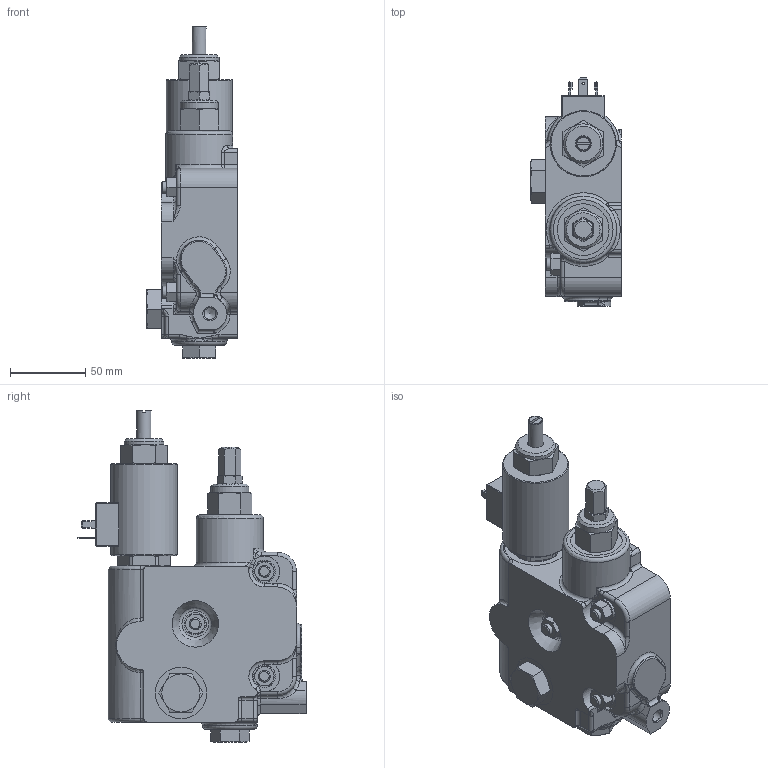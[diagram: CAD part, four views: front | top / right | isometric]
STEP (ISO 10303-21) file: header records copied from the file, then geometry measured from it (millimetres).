
FILE_DESCRIPTION((''),'2;1');
FILE_NAME('C:\Vault\Workspace\z_ShellModels\SVIF15P12H_Shell.stp','2012-02-09T10:27:06',('PetersW'),(''),'Autodesk Inventor 2011','Autodesk Inventor 2011','');
FILE_SCHEMA(('AUTOMOTIVE_DESIGN { 1 0 10303 214 1 1 1 1 }'));
Length unit declared in the file: inch
Products named in the file (13): Assembly3; SVIF15P12H_Shell; 627604001_Shell; 660250002_shell; 671000001_Shell; 671000002_Shell; 671800008; 220001304; 660280058_Shell; 671302121_Shell; 200300040; TierodEnd_SV; 200400030
Assembly tree (14 placements, depth 4):
  Assembly3
    SVIF15P12H_Shell
      627604001_Shell
      660250002_shell
        671000001_Shell
        671000002_Shell
        671800008
        220001304
      660280058_Shell
      671302121_Shell
      200300040
      TierodEnd_SV  x3
    200400030
Bounding box: 60.45 x 151.94 x 221.16 mm (x, y, z)
Volume: 820451.8 mm3; surface area: 113991.2 mm2
Topology: 15 solids, 16 shells, 710 faces, 1620 edges, 971 vertices
Faces by surface type: plane 255, cylinder 179, cone 150, torus 57, bspline 55, sphere 14
Full cylindrical faces by diameter (mm): 1.709 x1, 2.972 x1, 7.798 x1, 7.925 x3, 7.938 x1, 8.331 x3, 8.382 x2, 8.738 x1, 9.525 x1, 10.541 x1, 14.656 x1, 15.875 x1, 16.764 x1, 17.066 x1, 17.069 x1, 17.399 x2, 17.501 x1, 17.52 x2, 18.275 x4, 18.593 x1, 19.05 x2, 19.533 x3, 19.634 x1, 19.685 x1, 19.842 x1, 20.2 x1, 20.472 x3, 20.475 x4, 20.625 x3, 20.7 x1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
Entity records: 20727 total; most frequent: CARTESIAN_POINT 6843, DIRECTION 2810, ORIENTED_EDGE 2558, EDGE_CURVE 1279, AXIS2_PLACEMENT_3D 1188, EDGE_LOOP 863, VERTEX_POINT 850, FACE_OUTER_BOUND 651
